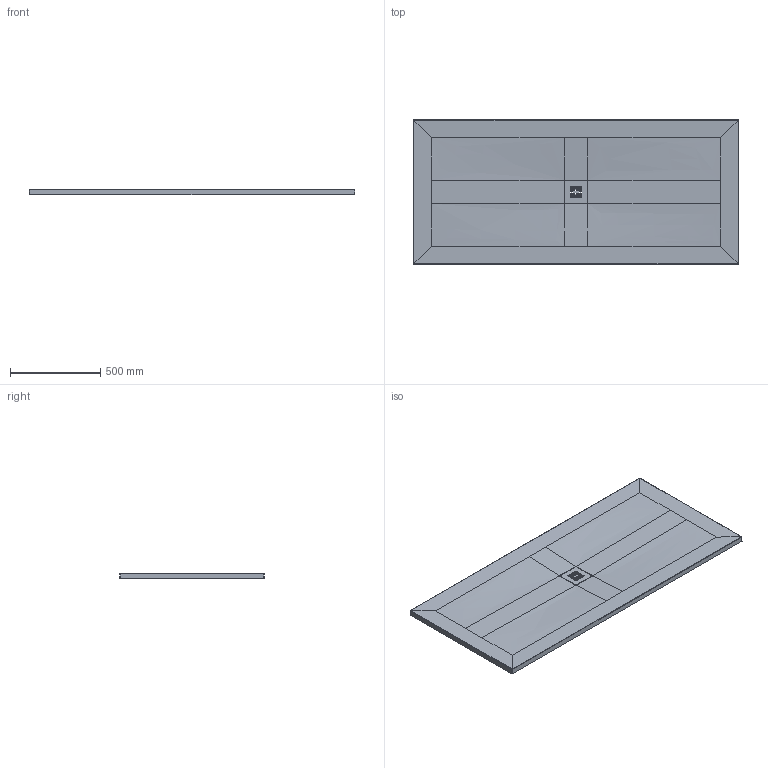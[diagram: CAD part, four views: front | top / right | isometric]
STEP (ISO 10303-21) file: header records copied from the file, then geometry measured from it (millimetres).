
FILE_DESCRIPTION(/* description */ (''),/* implementation_level */ '2;1');
FILE_NAME(/* name */ '720288',/* time_stamp */ '2022-02-10T09:16:49+01:00',/* author */ (''),/* organization */ (''),/* preprocessor_version */ 'ST-DEVELOPER v15',/* originating_system */ '',/* authorisation */ '');
FILE_SCHEMA (('AUTOMOTIVE_DESIGN'));
Length unit declared in the file: millimetre
Products named in the file (1): Document
Bounding box: 1800 x 800 x 30 mm (x, y, z)
Volume: 21067.4 mm3; surface area: 1599692.2 mm2
Topology: 1 solids, 2 shells, 122 faces, 339 edges, 219 vertices
Faces by surface type: bspline 64, plane 58
Entity records: 7323 total; most frequent: CARTESIAN_POINT 5145, ORIENTED_EDGE 646, EDGE_CURVE 339, B_SPLINE_CURVE_WITH_KNOTS 319, VERTEX_POINT 219, EDGE_LOOP 142, ADVANCED_FACE 122, FACE_OUTER_BOUND 122
